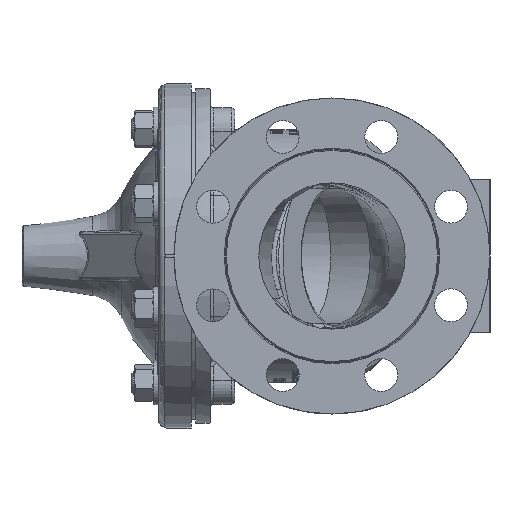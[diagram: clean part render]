
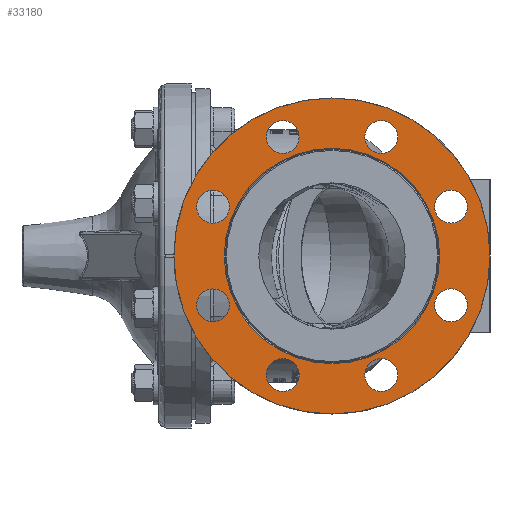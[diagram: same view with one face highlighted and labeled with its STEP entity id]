
A CAD part, left-side view. The second image highlights one B-rep face of the part: STEP entity #33180.
In plain terms, the highlighted planar face has unit normal (-1, 0, 0).
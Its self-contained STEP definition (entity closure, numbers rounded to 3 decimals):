
#4559=FACE_BOUND('',#8685,.T.);
#4560=FACE_BOUND('',#8686,.T.);
#4561=FACE_BOUND('',#8687,.T.);
#4562=FACE_BOUND('',#8688,.T.);
#4563=FACE_BOUND('',#8689,.T.);
#4564=FACE_BOUND('',#8690,.T.);
#4565=FACE_BOUND('',#8691,.T.);
#4566=FACE_BOUND('',#8692,.T.);
#4567=FACE_BOUND('',#8693,.T.);
#5064=PLANE('',#36018);
#6687=FACE_OUTER_BOUND('',#8684,.T.);
#8684=EDGE_LOOP('',(#28285));
#8685=EDGE_LOOP('',(#28286));
#8686=EDGE_LOOP('',(#28287));
#8687=EDGE_LOOP('',(#28288));
#8688=EDGE_LOOP('',(#28289));
#8689=EDGE_LOOP('',(#28290));
#8690=EDGE_LOOP('',(#28291));
#8691=EDGE_LOOP('',(#28292));
#8692=EDGE_LOOP('',(#28293));
#8693=EDGE_LOOP('',(#28294));
#10509=CIRCLE('',#36017,92.);
#10510=CIRCLE('',#36019,135.);
#10511=CIRCLE('',#36020,14.);
#10512=CIRCLE('',#36021,14.);
#10513=CIRCLE('',#36022,14.);
#10514=CIRCLE('',#36023,14.);
#10515=CIRCLE('',#36024,14.);
#10516=CIRCLE('',#36025,14.);
#10517=CIRCLE('',#36026,14.);
#10518=CIRCLE('',#36027,14.);
#15020=VERTEX_POINT('',#88927);
#15021=VERTEX_POINT('',#88931);
#15022=VERTEX_POINT('',#88933);
#15023=VERTEX_POINT('',#88935);
#15024=VERTEX_POINT('',#88937);
#15025=VERTEX_POINT('',#88939);
#15026=VERTEX_POINT('',#88941);
#15027=VERTEX_POINT('',#88943);
#15028=VERTEX_POINT('',#88945);
#15029=VERTEX_POINT('',#88947);
#19660=EDGE_CURVE('',#15020,#15020,#10509,.T.);
#19662=EDGE_CURVE('',#15021,#15021,#10510,.T.);
#19663=EDGE_CURVE('',#15022,#15022,#10511,.T.);
#19664=EDGE_CURVE('',#15023,#15023,#10512,.T.);
#19665=EDGE_CURVE('',#15024,#15024,#10513,.T.);
#19666=EDGE_CURVE('',#15025,#15025,#10514,.T.);
#19667=EDGE_CURVE('',#15026,#15026,#10515,.T.);
#19668=EDGE_CURVE('',#15027,#15027,#10516,.T.);
#19669=EDGE_CURVE('',#15028,#15028,#10517,.T.);
#19670=EDGE_CURVE('',#15029,#15029,#10518,.T.);
#28285=ORIENTED_EDGE('',*,*,#19662,.F.);
#28286=ORIENTED_EDGE('',*,*,#19663,.T.);
#28287=ORIENTED_EDGE('',*,*,#19664,.T.);
#28288=ORIENTED_EDGE('',*,*,#19665,.T.);
#28289=ORIENTED_EDGE('',*,*,#19666,.T.);
#28290=ORIENTED_EDGE('',*,*,#19667,.T.);
#28291=ORIENTED_EDGE('',*,*,#19668,.T.);
#28292=ORIENTED_EDGE('',*,*,#19669,.T.);
#28293=ORIENTED_EDGE('',*,*,#19670,.T.);
#28294=ORIENTED_EDGE('',*,*,#19660,.F.);
#33180=ADVANCED_FACE('',(#6687,#4559,#4560,#4561,#4562,#4563,#4564,#4565,
#4566,#4567),#5064,.F.);
#36017=AXIS2_PLACEMENT_3D('',#88928,#42075,#42076);
#36018=AXIS2_PLACEMENT_3D('',#88930,#42078,#42079);
#36019=AXIS2_PLACEMENT_3D('',#88932,#42080,#42081);
#36020=AXIS2_PLACEMENT_3D('',#88934,#42082,#42083);
#36021=AXIS2_PLACEMENT_3D('',#88936,#42084,#42085);
#36022=AXIS2_PLACEMENT_3D('',#88938,#42086,#42087);
#36023=AXIS2_PLACEMENT_3D('',#88940,#42088,#42089);
#36024=AXIS2_PLACEMENT_3D('',#88942,#42090,#42091);
#36025=AXIS2_PLACEMENT_3D('',#88944,#42092,#42093);
#36026=AXIS2_PLACEMENT_3D('',#88946,#42094,#42095);
#36027=AXIS2_PLACEMENT_3D('',#88948,#42096,#42097);
#42075=DIRECTION('center_axis',(-1.,0.,0.));
#42076=DIRECTION('ref_axis',(0.,0.,-1.));
#42078=DIRECTION('center_axis',(1.,0.,0.));
#42079=DIRECTION('ref_axis',(0.,0.,-1.));
#42080=DIRECTION('center_axis',(1.,0.,0.));
#42081=DIRECTION('ref_axis',(0.,0.,-1.));
#42082=DIRECTION('center_axis',(1.,0.,0.));
#42083=DIRECTION('ref_axis',(0.,0.707,0.707));
#42084=DIRECTION('center_axis',(1.,0.,0.));
#42085=DIRECTION('ref_axis',(0.,1.,0.));
#42086=DIRECTION('center_axis',(1.,0.,0.));
#42087=DIRECTION('ref_axis',(0.,0.707,-0.707));
#42088=DIRECTION('center_axis',(1.,0.,0.));
#42089=DIRECTION('ref_axis',(0.,0.,
-1.));
#42090=DIRECTION('center_axis',(1.,0.,0.));
#42091=DIRECTION('ref_axis',(0.,-0.707,-0.707));
#42092=DIRECTION('center_axis',(1.,0.,0.));
#42093=DIRECTION('ref_axis',(0.,-1.,0.));
#42094=DIRECTION('center_axis',(1.,0.,0.));
#42095=DIRECTION('ref_axis',(0.,-0.707,0.707));
#42096=DIRECTION('center_axis',(1.,0.,0.));
#42097=DIRECTION('ref_axis',(0.,0.,1.));
#88927=CARTESIAN_POINT('',(-197.,0.,92.));
#88928=CARTESIAN_POINT('Origin',(-197.,0.,0.));
#88930=CARTESIAN_POINT('Origin',(-197.,0.,0.));
#88931=CARTESIAN_POINT('',(-197.,0.,135.));
#88932=CARTESIAN_POINT('Origin',(-197.,0.,0.));
#88933=CARTESIAN_POINT('',(-197.,-111.526,-51.995));
#88934=CARTESIAN_POINT('Origin',(-197.,-101.627,-42.095));
#88935=CARTESIAN_POINT('',(-197.,-115.627,42.095));
#88936=CARTESIAN_POINT('Origin',(-197.,-101.627,42.095));
#88937=CARTESIAN_POINT('',(-197.,-51.995,111.526));
#88938=CARTESIAN_POINT('Origin',(-197.,-42.095,101.627));
#88939=CARTESIAN_POINT('',(-197.,42.095,115.627));
#88940=CARTESIAN_POINT('Origin',(-197.,42.095,101.627));
#88941=CARTESIAN_POINT('',(-197.,111.526,51.995));
#88942=CARTESIAN_POINT('Origin',(-197.,101.627,42.095));
#88943=CARTESIAN_POINT('',(-197.,115.627,-42.095));
#88944=CARTESIAN_POINT('Origin',(-197.,101.627,-42.095));
#88945=CARTESIAN_POINT('',(-197.,51.995,-111.526));
#88946=CARTESIAN_POINT('Origin',(-197.,42.095,-101.627));
#88947=CARTESIAN_POINT('',(-197.,-42.095,-115.627));
#88948=CARTESIAN_POINT('Origin',(-197.,-42.095,-101.627));
